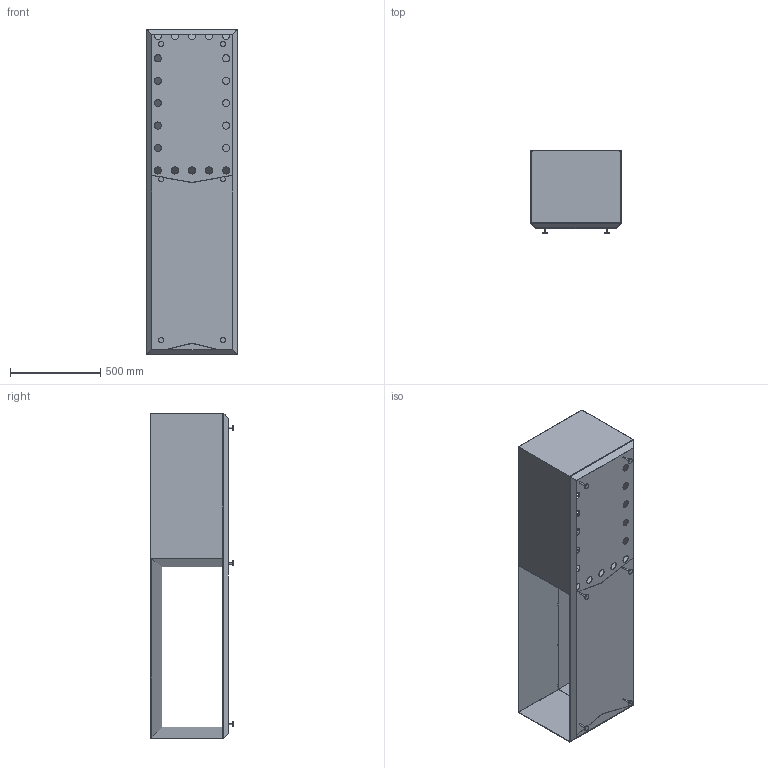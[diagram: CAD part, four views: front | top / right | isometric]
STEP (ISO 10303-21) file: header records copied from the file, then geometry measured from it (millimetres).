
FILE_DESCRIPTION(/* description */ (''),/* implementation_level */ '2;1');
FILE_NAME(/* name */ 'C:\Vault_WF\Designs\# STEPS to share\Hellfire\101119_B_Shrinkwrap_1.stp',/* time_stamp */ '2021-12-01T11:02:26+01:00',/* author */ ('Torbjörn'),/* organization */ (''),/* preprocessor_version */ 'ST-DEVELOPER v18.1',/* originating_system */ 'Autodesk Inventor 2021',/* authorisation */ '');
FILE_SCHEMA (('AUTOMOTIVE_DESIGN { 1 0 10303 214 3 1 1 }'));
Length unit declared in the file: millimetre
Products named in the file (1): 101119_B_Shrinkwrap_1
Bounding box: 500.7 x 457.87 x 1800 mm (x, y, z)
Volume: 7308502.1 mm3; surface area: 9837562 mm2
Topology: 57 solids, 57 shells, 1978 faces, 4113 edges, 2247 vertices
Faces by surface type: plane 1525, cylinder 442, bspline 11
Full cylindrical faces by diameter (mm): 8 x6, 28 x6, 40 x20
Entity records: 52873 total; most frequent: CARTESIAN_POINT 9009, DIRECTION 8889, ORIENTED_EDGE 8226, EDGE_CURVE 4113, LINE 3229, VECTOR 3229, AXIS2_PLACEMENT_3D 2830, VERTEX_POINT 2247
